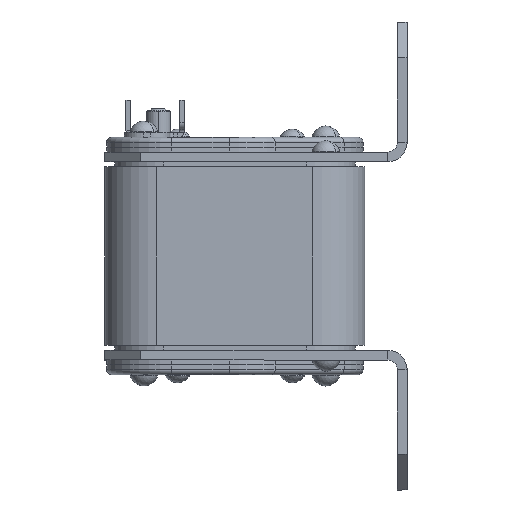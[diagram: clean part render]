
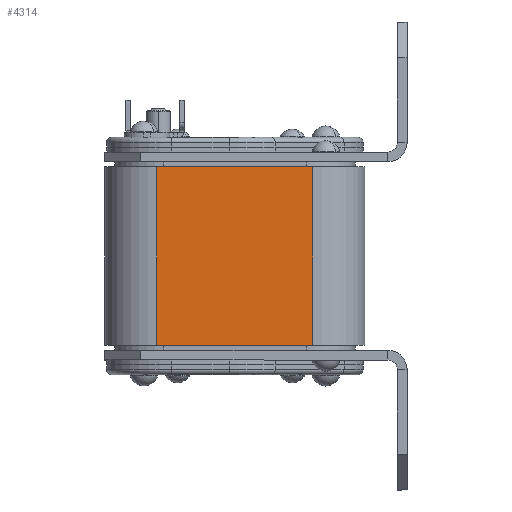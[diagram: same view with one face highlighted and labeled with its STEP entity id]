
A CAD part, left-side view. The second image highlights one B-rep face of the part: STEP entity #4314.
In plain terms, the highlighted planar face has unit normal (-1, 0, 0).
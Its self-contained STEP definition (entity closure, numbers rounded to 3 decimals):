
#550 = LINE ( 'NONE', #17865, #27200 ) ;
#1568 = EDGE_CURVE ( 'NONE', #14030, #25386, #550, .T. ) ;
#3059 = ORIENTED_EDGE ( 'NONE', *, *, #15850, .T. ) ;
#4314 = ADVANCED_FACE ( 'NONE', ( #5378 ), #23735, .T. ) ;
#4354 = ORIENTED_EDGE ( 'NONE', *, *, #10804, .T. ) ;
#5378 = FACE_OUTER_BOUND ( 'NONE', #9976, .T. ) ;
#5838 = LINE ( 'NONE', #6634, #27469 ) ;
#6309 = VERTEX_POINT ( 'NONE', #19645 ) ;
#6634 = CARTESIAN_POINT ( 'NONE',  ( -69.514, -22.958, -27.5 ) ) ;
#6784 = CARTESIAN_POINT ( 'NONE',  ( -69.514, 25.042, -27.5 ) ) ;
#8723 = DIRECTION ( 'NONE',  ( 0., 0., -1. ) ) ;
#9976 = EDGE_LOOP ( 'NONE', ( #10737, #3059, #22267, #4354 ) ) ;
#10507 = CARTESIAN_POINT ( 'NONE',  ( -69.514, 25.042, -27.5 ) ) ;
#10737 = ORIENTED_EDGE ( 'NONE', *, *, #1568, .T. ) ;
#10804 = EDGE_CURVE ( 'NONE', #6309, #14030, #17343, .T. ) ;
#10811 = DIRECTION ( 'NONE',  ( 0., 0., 1. ) ) ;
#12833 = CARTESIAN_POINT ( 'NONE',  ( -69.514, -22.958, -27.5 ) ) ;
#13415 = DIRECTION ( 'NONE',  ( 0., 0., 1. ) ) ;
#14030 = VERTEX_POINT ( 'NONE', #10507 ) ;
#14874 = EDGE_CURVE ( 'NONE', #6309, #15460, #22185, .T. ) ;
#15460 = VERTEX_POINT ( 'NONE', #26868 ) ;
#15584 = DIRECTION ( 'NONE',  ( 0., -1., 0. ) ) ;
#15771 = CARTESIAN_POINT ( 'NONE',  ( -69.514, -38.958, 27.5 ) ) ;
#15850 = EDGE_CURVE ( 'NONE', #25386, #15460, #5838, .T. ) ;
#15957 = DIRECTION ( 'NONE',  ( 0., -1., 0. ) ) ;
#15982 = AXIS2_PLACEMENT_3D ( 'NONE', #19566, #25855, #13415 ) ;
#17343 = LINE ( 'NONE', #6784, #19973 ) ;
#17865 = CARTESIAN_POINT ( 'NONE',  ( -69.514, -38.958, -27.5 ) ) ;
#19566 = CARTESIAN_POINT ( 'NONE',  ( -69.514, -38.958, -27.5 ) ) ;
#19645 = CARTESIAN_POINT ( 'NONE',  ( -69.514, 25.042, 27.5 ) ) ;
#19973 = VECTOR ( 'NONE', #8723, 1000. ) ;
#22185 = LINE ( 'NONE', #15771, #27537 ) ;
#22267 = ORIENTED_EDGE ( 'NONE', *, *, #14874, .F. ) ;
#23735 = PLANE ( 'NONE',  #15982 ) ;
#25386 = VERTEX_POINT ( 'NONE', #12833 ) ;
#25855 = DIRECTION ( 'NONE',  ( -1., 0., 0. ) ) ;
#26868 = CARTESIAN_POINT ( 'NONE',  ( -69.514, -22.958, 27.5 ) ) ;
#27200 = VECTOR ( 'NONE', #15584, 1000. ) ;
#27469 = VECTOR ( 'NONE', #10811, 1000. ) ;
#27537 = VECTOR ( 'NONE', #15957, 1000. ) ;
